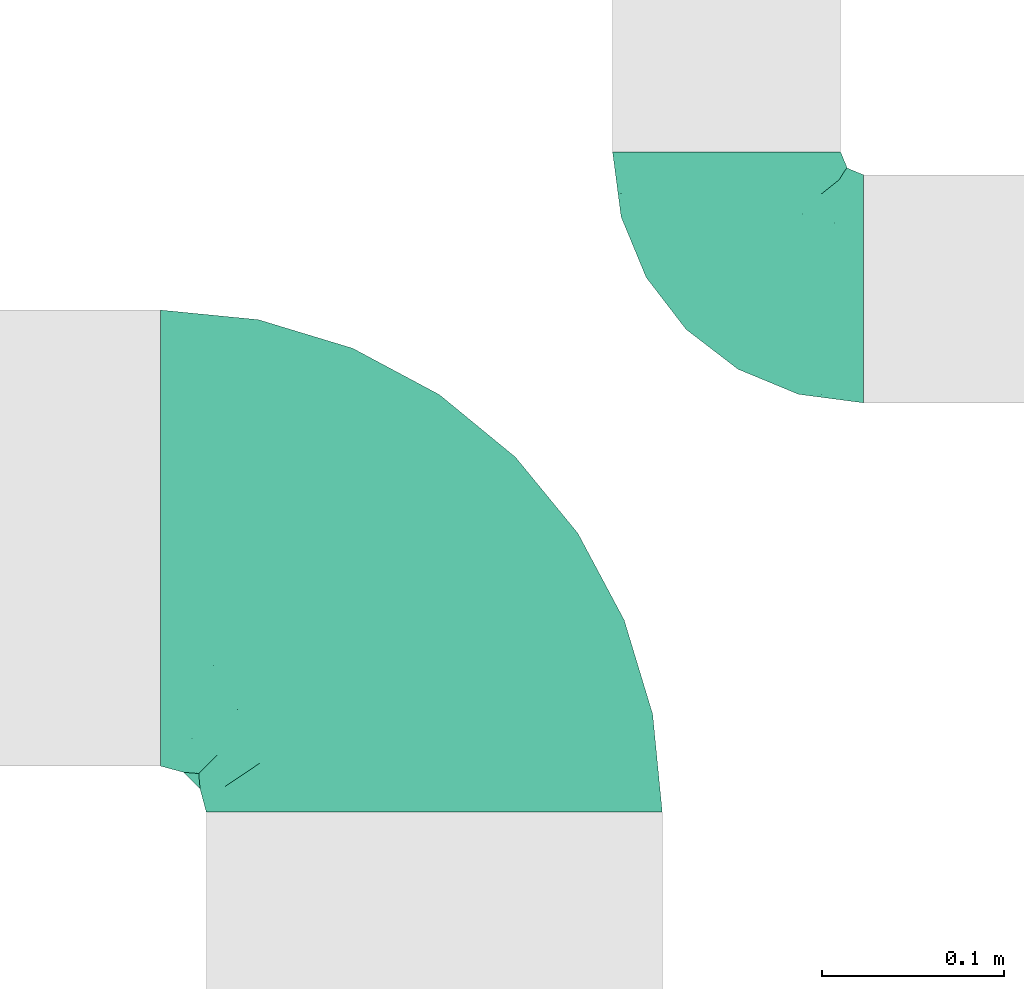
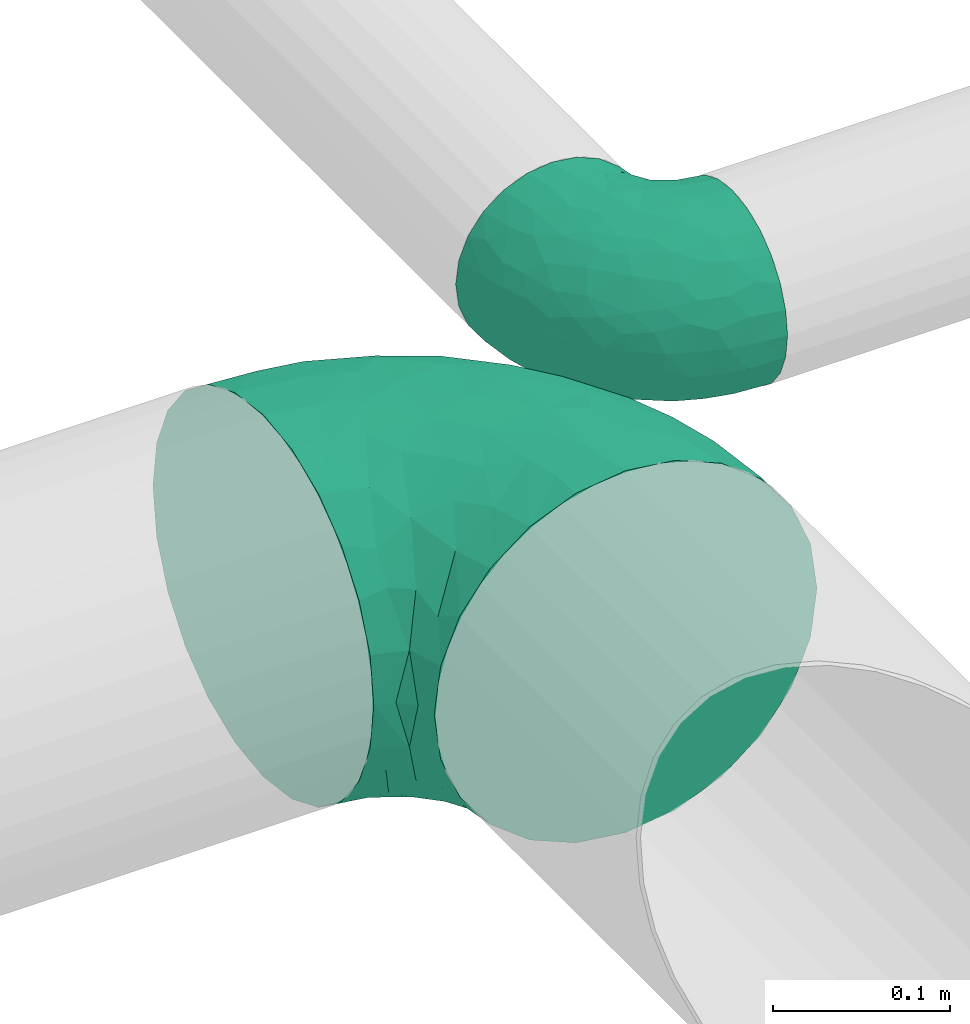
# One storey, part 39 of 63: 2 flow fittings.
"""IFC2X3 building model written with IfcOpenShell, lengths in millimetres."""

from ifc_helpers import new_model, entity, si_unit, converted_unit, derived_unit, direction, frame, origin_with_axes, place, context, subcontext, project, spatial, open_shell, surface_model, source, transform, mapped, type_object, element, save


model = new_model("IFC2X3")

# Units and contexts
model_context = context("Model", 3, precision=0.01, world=frame((0.0, 4.29681676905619e-09, 0.0)), true_north=direction((4.01073788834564e-13, 1.0)))
plan_context = context("Plan", 3, precision=0.01, world=frame((0.0, 4.29681676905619e-09, 0.0)), true_north=direction((4.01073788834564e-13, 1.0)))
body_context = subcontext(model_context, "Body", "Model", "MODEL_VIEW")
ifc_project = project(units=[converted_unit("PLANEANGLEUNIT", "DEGREE", entity("IfcPositiveLengthMeasure", 0.0174532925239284), si_unit("PLANEANGLEUNIT", "RADIAN"), dimensions=[0, 0, 0, 0, 0, 0, 0]), si_unit("AREAUNIT", "SQUARE_METRE"), si_unit("LENGTHUNIT", "METRE", prefix="MILLI"), si_unit("MASSUNIT", "GRAM", prefix="KILO"), si_unit("POWERUNIT", "WATT"), si_unit("PRESSUREUNIT", "PASCAL"), si_unit("FORCEUNIT", "NEWTON", prefix="KILO"), si_unit("ELECTRICVOLTAGEUNIT", "VOLT"), si_unit("ELECTRICCURRENTUNIT", "AMPERE"), si_unit("THERMODYNAMICTEMPERATUREUNIT", "DEGREE_CELSIUS"), si_unit("TIMEUNIT", "SECOND"), si_unit("VOLUMEUNIT", "CUBIC_METRE"), derived_unit("LINEARVELOCITYUNIT", [(si_unit("LENGTHUNIT", "METRE"), 1), (si_unit("TIMEUNIT", "SECOND"), -1)]), derived_unit("VOLUMETRICFLOWRATEUNIT", [(si_unit("VOLUMEUNIT", "CUBIC_METRE"), 1), (si_unit("TIMEUNIT", "SECOND"), -1)]), derived_unit("THERMALTRANSMITTANCEUNIT", [(si_unit("POWERUNIT", "WATT"), 1), (si_unit("THERMODYNAMICTEMPERATUREUNIT", "KELVIN"), -1), (si_unit("AREAUNIT", "SQUARE_METRE"), -1)]), derived_unit("SOUNDPRESSUREUNIT", [(si_unit("PRESSUREUNIT", "PASCAL"), 1)])], contexts=[model_context, plan_context])

# Site, building, storey
site_placement = place(None, frame((0.0, -4.29681676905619e-09, 0.0), z_axis=(0.0, 0.0, 1.0), x_axis=(1.0, 0.0, 0.0)))
site = spatial("IfcSite", under=ifc_project, at=site_placement, CompositionType="ELEMENT")
building_placement = place(site_placement, frame((0.0, 4.29681676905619e-09, 0.0), z_axis=(0.0, 0.0, 1.0), x_axis=(1.0, 0.0, 0.0)))
building = spatial("IfcBuilding", under=site, at=building_placement, Name="mc-building", CompositionType="ELEMENT")
storey_placement = place(building_placement, frame((0.0, 0.0, 210900.0), z_axis=(0.0, 0.0, 1.0), x_axis=(1.0, 0.0, 0.0)))
storey = spatial("IfcBuildingStorey", under=building, at=storey_placement, Name="Nivå F", CompositionType="ELEMENT", Elevation=210900.0)

# Flow fittings
duct_fitting_type = type_object("IfcDuctFittingType", Name="magicirc_elbow_short_001", PredefinedType="BEND")
shared_shape_1 = source(origin_with_axes(), body_context, "Body", "SurfaceModel", [
    surface_model("IfcShellBasedSurfaceModel", [(-150.0972, 0.0, -125.0), (-150.0972, -32.35238, -120.74073), (-150.0972, 32.35238, -120.74073), (-150.0972, 62.5, -108.25318), (-150.0972, 88.38835, -88.38835), (-150.0972, 108.25318, -62.5), (-150.0972, 120.74073, -32.35238), (-150.0972, -62.5, -108.25318), (-150.0972, -88.38835, -88.38835), (-150.0972, -125.0, 0.0), (-150.0972, -108.25318, -62.5), (-150.0972, -120.74073, -32.35238), (-150.0972, 125.0, 0.0), (-150.0972, -120.74073, 32.35238), (-150.0972, 120.74073, 32.35238), (-150.0972, 108.25318, 62.5), (-150.0972, 32.35238, 120.74073), (-150.0972, 62.5, 108.25318), (-150.0972, 88.38835, 88.38835), (-150.0972, -88.38835, 88.38835), (-150.0972, -108.25318, 62.5), (-150.0972, -32.35238, 120.74073), (-150.0972, 0.0, 125.0), (-150.0972, -62.5, 108.25318), (-32.4496, 150.0762, -120.74073), (88.2911, 150.15442, -88.38835), (-0.09722, 150.09716, -125.0), (-108.35038, 150.02704, -62.5), (-62.59721, 150.05667, -108.25318), (124.90275, 150.17813, 0.0), (-88.48555, 150.03991, -88.38835), (120.64348, 150.17537, 32.35238), (32.25515, 150.11812, -120.74073), (62.40276, 150.13765, -108.25318), (108.15593, 150.16728, -62.5), (120.64348, 150.17537, -32.35238), (-120.83793, 150.01895, -32.35238), (-125.0972, 150.0162, 0.0), (-120.83793, 150.01895, 32.35238), (-108.35038, 150.02704, 62.5), (-32.4496, 150.0762, 120.74073), (-88.48555, 150.03991, 88.38835), (-62.59721, 150.05667, 108.25318), (88.2911, 150.15442, 88.38835), (108.15593, 150.16728, 62.5), (62.40276, 150.13765, 108.25318), (-0.09722, 150.09716, 125.0), (32.25515, 150.11812, 120.74073), (24.48072, -24.61637, 78.94283), (-18.52637, -48.37994, 88.73025), (-8.04173, -60.9188, 68.90086), (-112.00358, -117.21453, 35.2862), (-119.04777, -121.94063, 0.0), (25.80274, 108.66495, 121.17359), (-75.90531, -90.32019, 72.94064), (-74.9755, -74.03393, 90.43499), (-106.27674, -83.08286, 89.59373), (-96.42552, -119.71161, 0.0), (-46.55642, 70.62769, 123.46382), (-76.17207, 76.12274, 116.42958), (-69.46241, 48.90508, 123.27651), (-124.59383, -102.85946, 69.13302), (78.61878, -2.68923, 0.0), (85.73849, 13.68132, 25.36666), (70.44199, -10.83075, 22.52189), (-124.87871, -54.07109, 111.94212), (-90.75665, -57.43818, 106.30507), (32.35431, -52.80826, 23.34963), (38.12723, -38.91422, 44.84757), (14.54114, -56.22264, 51.53596), (-95.77227, 131.6642, 83.8949), (-69.85156, 120.82358, 107.00431), (-67.1605, -108.39565, 29.86687), (-70.62181, -111.88072, 0.0), (-44.81811, -104.04983, 0.0), (-59.79111, 94.89723, 116.92077), (-108.64824, -25.87311, 121.1736), (53.99019, 124.9137, 111.94211), (-27.08036, -92.21892, 28.67154), (-115.10022, 7.31748, 124.96185), (9.98579, -70.13676, 26.36082), (23.58015, -61.5042, 0.0), (-29.57142, 7.33727, 119.47275), (-3.48723, -9.53981, 105.7338), (0.94046, 29.15476, 117.21203), (-136.17743, 114.55328, 55.67167), (-123.52228, 95.73345, 87.18474), (-119.15531, 119.07815, 65.83858), (-129.1793, 129.09564, 33.50057), (-137.59252, 128.35207, 0.0), (-121.50333, 69.81401, 106.85083), (-150.0972, 47.42619, 114.49695), (-128.73123, 33.72402, 120.89336), (-13.90256, -76.68971, 50.24663), (103.22985, 91.02413, 59.18345), (90.69766, 74.73169, 71.85315), (96.39576, 49.19099, 45.79181), (-41.19981, 38.30606, 124.8562), (102.77873, 124.66042, 69.13302), (83.014, 106.33053, 89.59373), (-94.09097, 107.97077, 96.06562), (74.91185, 76.58283, 90.06078), (117.14196, 112.07948, 35.2862), (121.86349, 119.12673, 0.0), (-47.41201, -61.19145, 91.80701), (78.85203, 48.15754, 74.22228), (77.05047, 15.93856, 51.80745), (-101.95839, 84.01726, 104.67527), (110.12903, 71.6119, 28.20498), (111.83495, 70.69427, 0.0), (55.50699, 7.45822, 74.75617), (58.16966, -16.80975, 44.43797), (57.37939, 90.79383, 106.30507), (29.9943, 57.40202, 113.43928), (-128.44116, 137.50935, 0.0), (-74.06924, 6.60335, 124.3929), (-33.60209, 127.73099, 120.99306), (-7.2693, 114.2011, 124.96966), (-18.48364, 93.2743, 124.82125), (14.95293, 81.80631, 121.68816), (-109.79492, 132.74994, 65.99086), (-81.60587, -16.36229, 121.36892), (-56.56582, -29.69215, 113.40491), (55.17991, 45.05306, 95.58745), (-54.92296, -96.11384, 51.55022), (-90.95726, -103.28879, 59.18345), (-48.10646, -78.8832, 74.22228), (-26.52317, -29.67388, 104.84215), (-7.24826, 68.85145, 124.1806), (30.73318, 15.67993, 99.80541), (-47.5234, 150.06644, 114.49695), (-107.9819, 38.91719, 121.04325), (-96.21486, 61.68203, 116.01189), (-96.40875, 19.14807, 124.70641), (91.31978, 21.09813, 0.0), (104.02078, 44.8855, 0.0), (98.9339, 37.85964, 21.62483), (119.64912, 96.50304, 0.0), (-21.03898, -91.33342, 0.0), (52.37395, -32.97385, 22.82054), (61.51946, -23.54031, 0.0), (2.74016, -78.61702, 0.0), (44.42014, -44.39138, 0.0), (-38.91182, 106.03196, 121.2378), (-120.86881, 69.77328, -107.00431), (53.99019, 124.9137, -111.94212), (-90.75665, -57.43818, -106.30507), (-124.87871, -54.07109, -111.94212), (-108.64824, -25.87311, -121.1736), (-18.52638, -48.37994, -88.73025), (-8.03696, -60.91434, -68.90243), (-47.40948, -61.19216, -91.80541), (-96.40875, 19.14807, -124.70641), (-74.06924, 6.60335, -124.39289), (-115.10022, 7.31748, -124.96185), (14.95293, 81.80632, -121.68816), (25.80274, 108.66496, -121.17359), (29.9943, 57.40204, -113.43928), (-129.1793, 129.09564, -33.50057), (-95.81344, 123.46023, -87.18474), (-84.08329, 101.90395, -104.67527), (-108.0317, 94.02101, -96.06562), (32.25687, -52.81312, -23.671), (-131.72621, 95.68696, -83.8949), (-132.82104, 109.70891, -65.99086), (-107.9819, 38.91719, -121.04325), (-128.73123, 33.72402, -120.89336), (-119.15531, 119.07815, -65.83858), (-112.00358, -117.21453, -35.2862), (-48.13899, 68.74808, -123.44965), (-7.24825, 68.85145, -124.1806), (-41.1998, 38.30605, -124.8562), (-76.17207, 76.12273, -116.42958), (-69.73196, 48.70616, -123.27446), (-95.4407, 59.83965, -116.78539), (-106.27674, -83.08286, -89.59373), (-3.48723, -9.53981, -105.7338), (24.48071, -24.61638, -78.94283), (-54.96876, -96.13781, -51.5373), (-75.90865, -90.31901, -72.94357), (-48.10646, -78.8832, -74.22228), (-124.59383, -102.85946, -69.13302), (30.73321, 15.67994, -99.8054), (0.94047, 29.15476, -117.21203), (-69.8927, 121.45808, -106.85084), (9.98579, -70.13676, -26.36082), (-27.10304, -92.21056, -28.74666), (78.85202, 48.15754, -74.22228), (96.06185, 52.26961, -49.3405), (80.70715, 17.60403, -46.36915), (38.10426, -38.85096, -45.00602), (58.16966, -16.80975, -44.43797), (-114.64147, 136.10321, -55.67167), (117.14196, 112.07948, -35.2862), (-7.26929, 114.20109, -124.96966), (14.54114, -56.22264, -51.53596), (-33.60209, 127.73099, -120.99306), (-47.5234, 150.06644, -114.49695), (70.34745, -10.98779, -22.43325), (52.24644, -33.0901, -22.90982), (83.014, 106.33053, -89.59373), (102.77873, 124.66042, -69.13302), (98.79163, 38.49279, -23.73425), (57.37938, 90.79383, -106.30507), (-67.1605, -108.39565, -29.86687), (89.97016, 76.8113, -73.6808), (73.63523, 74.44149, -90.5745), (-29.5714, 7.33728, -119.47275), (-56.56581, -29.69215, -113.40491), (-74.97313, -74.0325, -90.43556), (-90.95726, -103.28879, -59.18345), (-81.60587, -16.36229, -121.36892), (-26.52317, -29.67387, -104.84215), (103.22985, 91.02413, -59.18345), (-18.48364, 93.27429, -124.82125), (-38.91182, 106.03195, -121.2378), (55.17991, 45.0531, -95.58746), (-150.0972, 47.42619, -114.49695), (59.07403, 10.32862, -72.93382), (-61.74434, 96.17487, -116.01189), (109.61114, 70.30666, -28.70043), (-13.85205, -76.66939, -50.22706), (86.00494, 12.83, -21.95696)], [open_shell([[[0, 1, 2]], [[3, 2, 4]], [[1, 5, 2]], [[4, 2, 5]], [[5, 1, 6]], [[7, 8, 1]], [[9, 1, 8]], [[10, 11, 8]], [[9, 8, 11]], [[9, 6, 1]], [[9, 12, 6]], [[12, 13, 14]], [[15, 14, 16]], [[16, 17, 18]], [[15, 16, 18]], [[16, 14, 19]], [[20, 19, 13]], [[19, 14, 13]], [[21, 22, 23]], [[19, 23, 22]], [[19, 22, 16]], [[9, 13, 12]], [[24, 25, 26]], [[27, 24, 28]], [[29, 24, 27]], [[27, 28, 30]], [[31, 29, 27]], [[32, 25, 33]], [[32, 26, 25]], [[34, 29, 35]], [[29, 34, 25]], [[24, 29, 25]], [[27, 36, 31]], [[37, 38, 39]], [[37, 39, 40]], [[41, 42, 40]], [[41, 40, 39]], [[40, 43, 36]], [[31, 43, 44]], [[36, 43, 31]], [[45, 46, 47]], [[46, 45, 43]], [[40, 46, 43]], [[36, 37, 40]], [[48, 49, 50]], [[51, 13, 52]], [[53, 47, 46]], [[54, 55, 56]], [[52, 57, 51]], [[58, 59, 60]], [[20, 61, 19]], [[62, 63, 64]], [[65, 56, 66]], [[67, 68, 69]], [[41, 70, 71]], [[72, 73, 74]], [[59, 58, 75]], [[21, 76, 22]], [[77, 45, 47]], [[23, 19, 56]], [[72, 74, 78]], [[79, 16, 22]], [[76, 21, 65]], [[80, 81, 67]], [[82, 83, 84]], [[85, 86, 87]], [[88, 12, 14]], [[12, 88, 89]], [[18, 17, 90]], [[51, 20, 13]], [[18, 90, 86]], [[17, 91, 92]], [[85, 14, 15]], [[92, 91, 16]], [[80, 93, 78]], [[39, 70, 41]], [[94, 95, 96]], [[84, 97, 82]], [[44, 43, 98]], [[99, 43, 45]], [[87, 86, 100]], [[101, 95, 99]], [[102, 103, 31]], [[66, 55, 104]], [[77, 99, 45]], [[102, 31, 44]], [[96, 105, 106]], [[86, 15, 18]], [[107, 86, 90]], [[86, 85, 15]], [[102, 108, 109]], [[110, 48, 111]], [[112, 53, 113]], [[89, 88, 114]], [[60, 115, 97]], [[114, 88, 37]], [[86, 107, 100]], [[38, 37, 88]], [[71, 116, 42]], [[117, 118, 119]], [[120, 38, 88]], [[70, 120, 100]], [[121, 76, 122]], [[112, 113, 123]], [[117, 53, 46]], [[42, 41, 71]], [[77, 53, 112]], [[72, 78, 124]], [[54, 125, 124]], [[21, 23, 65]], [[122, 76, 66]], [[61, 56, 19]], [[76, 121, 79]], [[126, 104, 55]], [[122, 127, 82]], [[101, 99, 112]], [[98, 99, 94]], [[46, 40, 117]], [[113, 53, 119]], [[128, 84, 113]], [[113, 84, 129]], [[75, 100, 59]], [[116, 40, 130]], [[105, 110, 106]], [[123, 110, 105]], [[131, 90, 17]], [[107, 132, 59]], [[117, 40, 116]], [[117, 116, 118]], [[51, 57, 73]], [[61, 51, 125]], [[98, 102, 44]], [[108, 94, 96]], [[76, 79, 22]], [[133, 79, 115]], [[84, 128, 97]], [[129, 84, 83]], [[128, 118, 58]], [[59, 132, 60]], [[129, 83, 48]], [[123, 113, 129]], [[49, 48, 83]], [[48, 69, 68]], [[127, 49, 83]], [[126, 93, 50]], [[110, 123, 129]], [[123, 105, 101]], [[48, 110, 129]], [[110, 111, 106]], [[97, 115, 82]], [[122, 82, 115]], [[63, 96, 106]], [[134, 135, 136]], [[63, 62, 134]], [[96, 136, 108]], [[109, 137, 102]], [[102, 94, 108]], [[78, 74, 138]], [[73, 72, 51]], [[51, 72, 125]], [[68, 67, 139]], [[72, 124, 125]], [[93, 124, 78]], [[54, 124, 126]], [[64, 63, 106]], [[63, 134, 136]], [[64, 106, 111]], [[108, 136, 135]], [[63, 136, 96]], [[139, 64, 111]], [[139, 140, 64]], [[111, 68, 139]], [[80, 141, 81]], [[80, 78, 141]], [[139, 67, 142]], [[80, 69, 93]], [[50, 93, 69]], [[124, 93, 126]], [[48, 68, 111]], [[67, 69, 80]], [[140, 139, 142]], [[140, 62, 64]], [[142, 67, 81]], [[55, 54, 126]], [[56, 125, 54]], [[126, 50, 104]], [[56, 55, 66]], [[127, 104, 49]], [[66, 104, 122]], [[48, 50, 69]], [[50, 49, 104]], [[132, 107, 90]], [[100, 107, 59]], [[90, 131, 132]], [[60, 97, 58]], [[132, 131, 60]], [[60, 131, 133]], [[128, 58, 97]], [[75, 58, 143]], [[143, 71, 75]], [[100, 75, 71]], [[120, 70, 39]], [[71, 70, 100]], [[38, 120, 39]], [[100, 120, 87]], [[85, 88, 14]], [[120, 88, 87]], [[13, 9, 52]], [[103, 102, 137]], [[103, 29, 31]], [[88, 85, 87]], [[51, 61, 20]], [[56, 61, 125]], [[56, 65, 23]], [[76, 65, 66]], [[99, 98, 43]], [[102, 98, 94]], [[53, 77, 47]], [[99, 77, 112]], [[116, 71, 143]], [[42, 116, 130]], [[116, 143, 118]], [[79, 133, 92]], [[79, 92, 16]], [[17, 92, 131]], [[122, 115, 121]], [[79, 121, 115]], [[123, 101, 112]], [[95, 101, 105]], [[96, 95, 105]], [[99, 95, 94]], [[117, 119, 53]], [[128, 113, 119]], [[58, 118, 143]], [[119, 118, 128]], [[60, 133, 115]], [[92, 133, 131]], [[82, 127, 83]], [[104, 127, 122]], [[108, 135, 109]], [[138, 141, 78]], [[4, 144, 3]], [[32, 33, 145]], [[146, 147, 148]], [[149, 150, 151]], [[152, 153, 154]], [[155, 156, 157]], [[89, 158, 12]], [[159, 160, 161]], [[158, 6, 12]], [[162, 142, 81]], [[161, 163, 164]], [[3, 165, 166]], [[167, 159, 161]], [[158, 164, 6]], [[10, 168, 11]], [[169, 170, 171]], [[168, 52, 11]], [[172, 173, 174]], [[7, 147, 175]], [[176, 177, 149]], [[178, 179, 180]], [[148, 1, 0]], [[35, 29, 103]], [[10, 8, 181]], [[182, 176, 183]], [[160, 159, 184]], [[185, 141, 186]], [[8, 7, 175]], [[187, 188, 189]], [[190, 177, 191]], [[158, 89, 114]], [[154, 148, 0]], [[37, 36, 158]], [[173, 172, 169]], [[192, 36, 27]], [[193, 34, 35]], [[4, 163, 144]], [[192, 159, 167]], [[24, 26, 194]], [[147, 7, 1]], [[154, 0, 2]], [[156, 194, 26]], [[195, 190, 162]], [[196, 197, 24]], [[198, 199, 191]], [[184, 159, 30]], [[159, 27, 30]], [[200, 33, 25]], [[34, 201, 25]], [[135, 134, 202]], [[183, 171, 170]], [[198, 191, 189]], [[32, 145, 156]], [[200, 203, 145]], [[202, 189, 188]], [[204, 74, 73]], [[103, 137, 193]], [[35, 103, 193]], [[30, 28, 184]], [[204, 178, 186]], [[32, 156, 26]], [[200, 205, 206]], [[207, 183, 176]], [[146, 148, 208]], [[179, 209, 180]], [[37, 158, 114]], [[181, 175, 210]], [[5, 163, 4]], [[208, 211, 153]], [[207, 208, 153]], [[212, 176, 149]], [[201, 200, 25]], [[205, 200, 213]], [[157, 156, 203]], [[214, 215, 196]], [[203, 206, 216]], [[183, 170, 157]], [[174, 161, 172]], [[166, 2, 217]], [[182, 177, 176]], [[189, 191, 218]], [[184, 28, 196]], [[160, 219, 172]], [[194, 156, 155]], [[28, 197, 196]], [[181, 168, 10]], [[168, 73, 57]], [[193, 109, 220]], [[201, 193, 213]], [[2, 166, 154]], [[154, 153, 211]], [[182, 183, 157]], [[183, 207, 171]], [[153, 152, 173]], [[172, 219, 169]], [[157, 216, 182]], [[216, 187, 218]], [[177, 182, 218]], [[195, 221, 150]], [[150, 177, 195]], [[209, 151, 180]], [[203, 216, 157]], [[187, 189, 218]], [[177, 218, 191]], [[182, 216, 218]], [[205, 188, 187]], [[189, 222, 198]], [[220, 188, 213]], [[135, 202, 220]], [[213, 193, 220]], [[202, 134, 222]], [[62, 222, 134]], [[220, 202, 188]], [[222, 62, 198]], [[202, 222, 189]], [[199, 140, 142]], [[140, 199, 198]], [[195, 162, 185]], [[190, 191, 199]], [[186, 141, 138]], [[185, 81, 141]], [[185, 186, 221]], [[74, 204, 186]], [[185, 221, 195]], [[178, 221, 186]], [[180, 151, 150]], [[190, 199, 162]], [[177, 190, 195]], [[198, 62, 140]], [[142, 162, 199]], [[81, 185, 162]], [[207, 176, 212]], [[153, 171, 207]], [[204, 168, 210]], [[168, 204, 73]], [[204, 210, 178]], [[179, 178, 210]], [[221, 178, 180]], [[210, 175, 179]], [[209, 175, 146]], [[175, 209, 179]], [[146, 208, 151]], [[146, 151, 209]], [[212, 151, 208]], [[180, 150, 221]], [[177, 150, 149]], [[219, 160, 184]], [[161, 160, 172]], [[184, 215, 219]], [[169, 171, 173]], [[219, 215, 169]], [[169, 215, 214]], [[153, 173, 171]], [[174, 165, 144]], [[165, 174, 173]], [[161, 174, 144]], [[164, 163, 5]], [[144, 163, 161]], [[6, 164, 5]], [[161, 164, 167]], [[192, 158, 36]], [[164, 158, 167]], [[52, 168, 57]], [[52, 9, 11]], [[159, 192, 27]], [[158, 192, 167]], [[175, 181, 8]], [[168, 181, 210]], [[148, 147, 1]], [[175, 147, 146]], [[193, 201, 34]], [[200, 201, 213]], [[200, 145, 33]], [[156, 145, 203]], [[194, 214, 196]], [[194, 196, 24]], [[196, 215, 184]], [[165, 3, 144]], [[3, 166, 217]], [[166, 165, 152]], [[208, 148, 211]], [[154, 211, 148]], [[188, 205, 213]], [[206, 205, 187]], [[216, 206, 187]], [[200, 206, 203]], [[157, 170, 155]], [[155, 170, 214]], [[155, 214, 194]], [[169, 214, 170]], [[166, 152, 154]], [[173, 152, 165]], [[151, 212, 149]], [[207, 212, 208]], [[109, 193, 137]], [[109, 135, 220]], [[138, 74, 186]]])]),
])
flow_fitting_1_placement = place(storey_placement, frame((526903.9241, 460995.43816, 4200.0), z_axis=(0.0, 0.0, 1.0), x_axis=(0.000647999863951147, 0.999999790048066, 0.0)))
element("IfcFlowFitting", 1, at=flow_fitting_1_placement, inside=storey, type_object=duct_fitting_type, Name="magicirc_elbow_short_001", context=body_context, shape_type="MappedRepresentation", body=[
    mapped(shared_shape_1, transform((0.0, 0.0, 0.0), scale=1.0)),
])
shared_shape_2 = source(origin_with_axes(), body_context, "Body", "SurfaceModel", [
    surface_model("IfcShellBasedSurfaceModel", [(-75.0, 31.25, -54.12659), (-75.0, 16.17619, -60.37037), (-75.0, 0.0, -62.5), (-75.0, 44.19417, -44.19417), (-75.0, 60.37037, -16.17619), (-75.0, 54.12659, -31.25), (-75.0, -60.37037, -16.17619), (-75.0, 16.17619, 60.37037), (-75.0, -31.25, -54.12659), (-75.0, -44.19417, -44.19417), (-75.0, -16.17619, -60.37037), (-75.0, -54.12659, -31.25), (-75.0, -62.5, 0.0), (-75.0, -60.37037, 16.17619), (-75.0, 60.37037, 16.17619), (-75.0, 54.12659, 31.25), (-75.0, 44.19417, 44.19417), (-75.0, 31.25, 54.12659), (-75.0, -31.25, 54.12659), (-75.0, -54.12659, 31.25), (-75.0, -44.19417, 44.19417), (-75.0, -16.17619, 60.37037), (-75.0, 0.0, 62.5), (-75.0, 62.5, 0.0), (0.0, 75.0, -62.5), (-16.17619, 75.0, -60.37037), (-31.25, 75.0, -54.12659), (-44.19417, 75.0, -44.19417), (-54.12659, 75.0, -31.25), (-60.37037, 75.0, -16.17619), (60.37037, 75.0, -16.17619), (16.17619, 75.0, -60.37037), (44.19417, 75.0, -44.19417), (31.25, 75.0, -54.12659), (54.12659, 75.0, -31.25), (60.37037, 75.0, 16.17619), (62.5, 75.0, 0.0), (-60.37037, 75.0, 16.17619), (31.25, 75.0, 54.12659), (-62.5, 75.0, 0.0), (-44.19417, 75.0, 44.19417), (-54.12659, 75.0, 31.25), (-31.25, 75.0, 54.12659), (-16.17619, 75.0, 60.37037), (44.19417, 75.0, 44.19417), (54.12659, 75.0, 31.25), (0.0, 75.0, 62.5), (16.17619, 75.0, 60.37037), (-54.41965, 4.9076, 62.46962), (-43.07663, -50.3477, 30.86167), (-61.32051, -50.97518, 35.09607), (-52.17674, -57.92087, 17.95277), (-62.43154, 17.51182, 60.37632), (-58.69142, 36.21142, 53.12594), (-36.15787, -34.17169, 47.28033), (-49.20005, -26.98142, 54.7225), (-52.44662, -40.43207, 45.71912), (-39.41238, -57.8148, 0.0), (-59.55287, -60.46635, 0.0), (-21.2417, 53.89104, 60.07355), (-4.92681, 55.18917, 62.46196), (-37.31129, -10.64159, 59.67821), (-23.32885, -22.63143, 51.46564), (45.00046, 26.14997, 30.48254), (40.43207, 52.44662, 45.71912), (34.17169, 36.15786, 47.28034), (-58.01497, -11.22233, 61.15858), (7.98859, -33.15284, 0.0), (-5.07758, -42.02269, 12.0817), (-6.25, -44.07849, 0.0), (-65.77412, 55.39531, 32.58597), (19.31816, -1.61632, 41.74415), (-0.01407, -20.25658, 42.05996), (7.98051, -25.05892, 29.70329), (-50.43905, 21.50015, 60.38226), (-32.62304, 11.81495, 62.49067), (-75.0, 23.71309, 57.24848), (-19.16694, -47.63044, 18.35967), (-22.83119, -50.94664, 0.0), (-12.81315, 40.08766, 62.39137), (-64.88508, 64.88508, 14.91055), (-66.16116, 66.16116, 0.0), (-64.3895, 48.63961, 41.66718), (-36.17361, 59.29902, 53.00354), (-7.44224, -37.28377, 27.67087), (57.92087, 52.17674, 17.95277), (11.22233, 58.01496, 61.15858), (26.98142, 49.20005, 54.7225), (50.97518, 61.32051, 35.09607), (-9.68247, 19.8451, 61.61349), (-20.02482, 0.98755, 60.08782), (54.54584, 33.25196, 13.12349), (50.3477, 43.07663, 30.86167), (47.63044, 19.16693, 18.35967), (60.46635, 59.55287, 0.0), (57.8148, 39.41238, 0.0), (-52.03087, 52.03087, 45.81022), (-40.99804, 41.45559, 56.25325), (-59.75449, 61.67073, 30.1459), (-48.63961, 64.3895, 41.66718), (22.63143, 23.32884, 51.46564), (10.64159, 37.31128, 59.67821), (-26.35257, 31.26676, 61.76071), (36.04195, 20.50324, 39.18089), (33.15284, -7.98859, 0.0), (44.07849, 6.25, 0.0), (39.06297, 0.98467, 13.73156), (-35.51069, -53.77784, 18.50898), (-26.05421, -44.88845, 30.60318), (18.26925, -21.80204, 19.36618), (28.10027, -8.65036, 23.85868), (-20.50325, -36.04195, 39.18089), (28.65228, -13.7486, 11.37845), (22.22718, -22.22718, 0.0), (50.94664, 22.83119, 0.0), (38.74756, 9.48751, 27.21296), (-36.83854, 22.71454, 61.65056), (-0.76697, 40.09085, 62.10319), (9.76185, 15.68787, 55.64785), (-1.52477, 1.52476, 55.41192), (10.21292, 0.88545, 49.67113), (-1.51037, -10.53311, 49.79781), (-14.78892, -10.16007, 55.20876), (6.13387, -33.19831, 16.65882), (-53.89105, 21.24169, -60.07355), (-17.51182, 62.43153, -60.37632), (-23.71309, 75.0, -57.24848), (-58.01496, -11.22234, -61.15858), (-33.25196, -54.54584, -13.12349), (-52.17674, -57.92087, -17.95277), (-55.18917, 4.92681, -62.46196), (-19.84509, 9.68247, -61.61349), (-11.81496, 32.62304, -62.49067), (-0.98756, 20.02482, -60.08782), (-61.67073, 59.75449, -30.1459), (-52.03087, 52.03087, -45.81022), (-64.38951, 48.63961, -41.66718), (47.63044, 19.16693, -18.35967), (42.02269, 5.07758, -12.0817), (-43.07663, -50.3477, -30.86167), (-19.16693, -47.63044, -18.35967), (-23.32884, -22.63143, -51.46564), (-20.50325, -36.04195, -39.18089), (-36.15787, -34.1717, -47.28033), (57.92087, 52.17674, -17.95277), (-31.26676, 26.35257, -61.76071), (-61.32051, -50.97518, -35.09607), (-59.29902, 36.17361, -53.00354), (-55.39531, 65.77412, -32.58597), (-52.44662, -40.43207, -45.71912), (-49.20005, -26.98142, -54.7225), (-26.14997, -45.00046, -30.48254), (-40.08766, 12.81314, -62.39137), (-4.90759, 54.41963, -62.46962), (40.43207, 52.44662, -45.71912), (-64.88508, 64.88508, -14.91055), (53.77784, 35.51069, -18.50898), (-48.63961, 64.3895, -41.66718), (26.98142, 49.20005, -54.7225), (-0.98468, -39.06297, -13.73156), (-21.50015, 50.43905, -60.38226), (10.64159, 37.31128, -59.67821), (11.22233, 58.01496, -61.15858), (50.97518, 61.32051, -35.09607), (-36.21142, 58.69142, -53.12594), (1.61632, -19.31817, -41.74414), (20.25658, 0.01407, -42.05996), (25.05891, -7.98052, -29.70329), (37.28376, 7.44224, -27.67087), (21.80204, -18.26925, -19.36618), (33.19831, -6.13387, -16.65882), (22.63143, 23.32884, -51.46564), (50.3477, 43.07663, -30.86167), (-41.45559, 40.99803, -56.25325), (34.17169, 36.15787, -47.28033), (-37.31129, -10.6416, -59.67821), (44.88845, 26.05421, -30.60318), (8.65035, -28.10027, -23.85868), (36.04195, 20.50325, -39.1809), (13.7486, -28.65228, -11.37845), (-9.48751, -38.74756, -27.21297), (-22.71455, 36.83854, -61.65056), (-40.09085, 0.76697, -62.10319), (-15.68786, -9.76186, -55.64784), (-1.52477, 1.52476, -55.41192), (-0.88545, -10.21292, -49.67113), (10.53311, 1.51037, -49.79781), (10.16006, 14.78892, -55.20876)], [open_shell([[[0, 1, 2]], [[3, 0, 2]], [[4, 5, 3]], [[6, 3, 2]], [[6, 7, 3]], [[8, 9, 10]], [[6, 10, 9]], [[11, 6, 9]], [[6, 2, 10]], [[12, 13, 6]], [[7, 4, 3]], [[4, 7, 14]], [[15, 14, 16]], [[14, 7, 17]], [[16, 14, 17]], [[18, 7, 6]], [[19, 20, 13]], [[13, 20, 6]], [[21, 22, 18]], [[18, 6, 20]], [[7, 18, 22]], [[14, 23, 4]], [[24, 25, 26]], [[24, 26, 27]], [[27, 28, 29]], [[24, 27, 30]], [[30, 27, 29]], [[31, 32, 33]], [[32, 31, 30]], [[32, 30, 34]], [[31, 24, 30]], [[30, 35, 36]], [[30, 29, 35]], [[37, 38, 39]], [[40, 37, 41]], [[42, 43, 37]], [[42, 37, 40]], [[38, 37, 43]], [[35, 44, 45]], [[35, 39, 44]], [[38, 46, 47]], [[38, 44, 39]], [[46, 38, 43]], [[39, 35, 29]], [[7, 22, 48]], [[49, 50, 51]], [[52, 53, 17]], [[54, 55, 56]], [[57, 51, 58]], [[43, 59, 60]], [[61, 55, 62]], [[63, 64, 65]], [[50, 20, 19]], [[56, 55, 18]], [[66, 22, 21]], [[67, 68, 69]], [[70, 14, 15]], [[55, 61, 66]], [[71, 72, 73]], [[74, 48, 75]], [[21, 18, 55]], [[17, 53, 16]], [[17, 76, 52]], [[77, 78, 69]], [[79, 60, 59]], [[23, 80, 81]], [[55, 54, 62]], [[23, 14, 80]], [[82, 70, 15]], [[18, 20, 56]], [[15, 16, 82]], [[42, 83, 59]], [[73, 72, 84]], [[51, 13, 58]], [[51, 19, 13]], [[45, 85, 35]], [[64, 44, 38]], [[86, 87, 47]], [[45, 44, 88]], [[38, 47, 87]], [[89, 75, 90]], [[85, 45, 88]], [[91, 92, 93]], [[87, 64, 38]], [[52, 76, 7]], [[85, 94, 35]], [[42, 40, 83]], [[91, 95, 85]], [[83, 96, 97]], [[37, 98, 41]], [[80, 98, 37]], [[98, 96, 99]], [[100, 87, 101]], [[81, 80, 39]], [[77, 69, 68]], [[42, 59, 43]], [[59, 83, 97]], [[102, 75, 89]], [[100, 103, 65]], [[40, 41, 99]], [[43, 60, 46]], [[104, 105, 106]], [[107, 49, 51]], [[86, 47, 46]], [[77, 107, 78]], [[57, 78, 107]], [[49, 107, 108]], [[73, 109, 110]], [[108, 84, 111]], [[104, 112, 113]], [[103, 100, 71]], [[114, 91, 93]], [[60, 86, 46]], [[114, 93, 105]], [[115, 93, 63]], [[93, 115, 106]], [[66, 48, 22]], [[116, 75, 102]], [[74, 116, 97]], [[82, 53, 96]], [[99, 83, 40]], [[96, 53, 97]], [[79, 59, 102]], [[60, 117, 86]], [[65, 64, 87]], [[88, 64, 92]], [[50, 56, 20]], [[56, 49, 108]], [[48, 61, 75]], [[90, 75, 61]], [[118, 89, 119]], [[79, 117, 60]], [[119, 120, 118]], [[71, 110, 115]], [[119, 121, 120]], [[122, 121, 119]], [[72, 62, 111]], [[90, 122, 119]], [[72, 111, 84]], [[71, 120, 121]], [[74, 97, 53]], [[59, 97, 102]], [[13, 12, 58]], [[94, 85, 95]], [[94, 36, 35]], [[87, 86, 101]], [[55, 66, 21]], [[48, 66, 61]], [[98, 99, 41]], [[83, 99, 96]], [[53, 82, 16]], [[70, 96, 98]], [[102, 89, 79]], [[117, 89, 101]], [[89, 117, 79]], [[86, 117, 101]], [[96, 70, 82]], [[70, 98, 80]], [[80, 14, 70]], [[39, 80, 37]], [[51, 50, 19]], [[56, 50, 49]], [[64, 88, 44]], [[85, 88, 92]], [[52, 48, 74]], [[48, 52, 7]], [[52, 74, 53]], [[107, 51, 57]], [[108, 107, 77]], [[77, 68, 84]], [[108, 111, 54]], [[77, 84, 108]], [[84, 123, 73]], [[109, 73, 123]], [[71, 73, 110]], [[113, 109, 123]], [[93, 106, 105]], [[109, 112, 110]], [[92, 63, 93]], [[112, 106, 110]], [[113, 112, 109]], [[106, 112, 104]], [[71, 115, 103]], [[110, 106, 115]], [[64, 63, 92]], [[103, 115, 63]], [[67, 113, 123]], [[84, 68, 123]], [[68, 67, 123]], [[95, 91, 114]], [[92, 91, 85]], [[100, 65, 87]], [[63, 65, 103]], [[108, 54, 56]], [[62, 54, 111]], [[97, 116, 102]], [[74, 75, 116]], [[122, 61, 62]], [[89, 90, 119]], [[61, 122, 90]], [[121, 62, 72]], [[62, 121, 122]], [[71, 121, 72]], [[71, 100, 120]], [[118, 120, 100]], [[100, 101, 118]], [[89, 118, 101]], [[0, 124, 1]], [[125, 126, 25]], [[10, 2, 127]], [[128, 57, 129]], [[1, 130, 2]], [[131, 132, 133]], [[134, 135, 136]], [[137, 105, 138]], [[5, 136, 3]], [[128, 139, 140]], [[5, 4, 134]], [[141, 142, 143]], [[144, 34, 30]], [[145, 132, 131]], [[129, 11, 146]], [[0, 3, 147]], [[129, 58, 6]], [[148, 29, 28]], [[149, 8, 150]], [[151, 149, 143]], [[9, 8, 149]], [[8, 10, 150]], [[152, 130, 124]], [[9, 146, 11]], [[25, 24, 153]], [[10, 127, 150]], [[11, 129, 6]], [[33, 32, 154]], [[23, 81, 155]], [[137, 156, 114]], [[39, 29, 155]], [[155, 134, 4]], [[28, 157, 148]], [[31, 33, 158]], [[67, 69, 159]], [[27, 157, 28]], [[26, 126, 125]], [[147, 124, 0]], [[160, 153, 132]], [[158, 161, 162]], [[163, 32, 34]], [[27, 26, 164]], [[165, 166, 167]], [[31, 162, 24]], [[168, 167, 166]], [[1, 124, 130]], [[137, 114, 105]], [[113, 169, 170]], [[161, 158, 171]], [[154, 158, 33]], [[172, 163, 144]], [[147, 135, 173]], [[144, 94, 95]], [[158, 174, 171]], [[141, 150, 175]], [[154, 174, 158]], [[124, 147, 173]], [[125, 164, 26]], [[95, 114, 156]], [[155, 4, 23]], [[156, 172, 144]], [[144, 30, 94]], [[172, 156, 176]], [[167, 169, 177]], [[176, 168, 178]], [[67, 179, 113]], [[142, 141, 165]], [[78, 128, 140]], [[30, 36, 94]], [[78, 140, 69]], [[180, 140, 151]], [[140, 180, 159]], [[162, 153, 24]], [[181, 132, 145]], [[160, 181, 173]], [[157, 164, 135]], [[136, 147, 3]], [[135, 164, 173]], [[152, 124, 145]], [[130, 182, 127]], [[143, 149, 150]], [[146, 149, 139]], [[163, 154, 32]], [[154, 172, 176]], [[153, 161, 132]], [[133, 132, 161]], [[183, 131, 184]], [[152, 182, 130]], [[184, 185, 183]], [[165, 177, 180]], [[184, 186, 185]], [[187, 186, 184]], [[166, 171, 178]], [[133, 187, 184]], [[166, 178, 168]], [[165, 185, 186]], [[160, 173, 164]], [[124, 173, 145]], [[58, 129, 57]], [[58, 12, 6]], [[130, 127, 2]], [[150, 127, 175]], [[158, 162, 31]], [[153, 162, 161]], [[134, 136, 5]], [[147, 136, 135]], [[164, 157, 27]], [[148, 135, 134]], [[145, 131, 152]], [[182, 131, 175]], [[131, 182, 152]], [[127, 182, 175]], [[135, 148, 157]], [[148, 134, 155]], [[39, 155, 81]], [[155, 29, 148]], [[144, 163, 34]], [[154, 163, 172]], [[149, 146, 9]], [[129, 146, 139]], [[125, 153, 160]], [[153, 125, 25]], [[125, 160, 164]], [[156, 144, 95]], [[176, 156, 137]], [[137, 138, 168]], [[176, 178, 174]], [[137, 168, 176]], [[168, 170, 167]], [[169, 167, 170]], [[165, 167, 177]], [[138, 104, 170]], [[140, 159, 69]], [[169, 179, 177]], [[139, 151, 140]], [[179, 159, 177]], [[113, 179, 169]], [[159, 179, 67]], [[165, 180, 142]], [[177, 159, 180]], [[149, 151, 139]], [[142, 180, 151]], [[57, 128, 78]], [[168, 138, 170]], [[104, 138, 105]], [[104, 113, 170]], [[139, 128, 129]], [[141, 143, 150]], [[151, 143, 142]], [[176, 174, 154]], [[171, 174, 178]], [[173, 181, 145]], [[160, 132, 181]], [[187, 161, 171]], [[131, 133, 184]], [[161, 187, 133]], [[186, 171, 166]], [[171, 186, 187]], [[165, 186, 166]], [[165, 141, 185]], [[183, 185, 141]], [[141, 175, 183]], [[131, 183, 175]]])]),
])
flow_fitting_2_placement = place(storey_placement, frame((527064.09314, 461132.06301, 4200.0), z_axis=(0.0, 0.0, 1.0), x_axis=(0.0, -1.0, 0.0)))
element("IfcFlowFitting", 2, at=flow_fitting_2_placement, inside=storey, type_object=duct_fitting_type, Name="magicirc_elbow_short_001", context=body_context, shape_type="MappedRepresentation", body=[
    mapped(shared_shape_2, transform((0.0, 0.0, 0.0), scale=1.0)),
])

save(model, "model.ifc")
